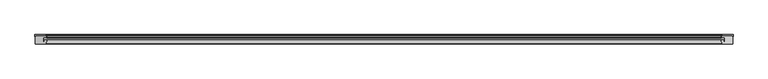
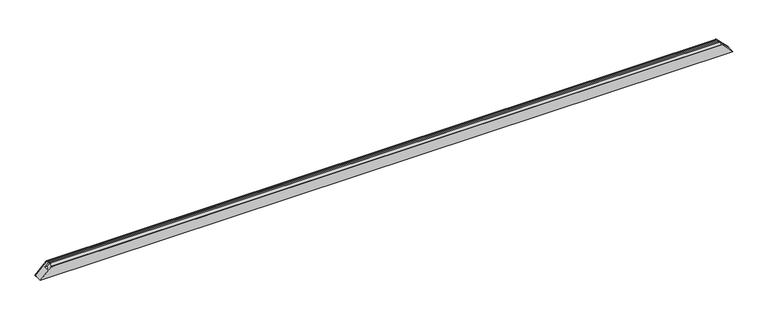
"""IFC4 building model written with IfcOpenShell, lengths in millimetres: proxy geometry, Weiku - Montante - Caixilho fixo 02.2.01.005 : Weiku - Montante - Caixilho fixo 02.2.01.005."""

from ifc_helpers import new_model, si_unit, frame, origin, place, context, project, spatial, polyline, ellipse_curve, source, transform, mapped, element, save
from ifc_brep_helpers import plane_surface, cylinder_surface, revolved_surface, advanced_brep


def generic_models_32cdc258(model_context):
    return source(origin(), model_context, "Body", "AdvancedBrep", [
        advanced_brep(
        [(1998.0, 43.5137905, -1.0), (1998.0, 54.0, -1.0), (1932.9663236, 54.0, 64.0336764), (1932.0003978, 53.258819, 64.9996022), (1928.1863753, 39.0246933, 68.8136247), (1930.8909676, 35.5, 66.1090324), (1930.8909676, 37.5, 66.1090324), (1930.118227, 38.5070552, 66.881773), (1932.6019557, 47.7764571, 64.3980443), (1935.4997332, 50.0, 61.5002668), (1997.0, 50.0, 0.0), (1997.0, 43.5137905, 0.0), (-1998.0, 54.0, -1.0), (-1998.0, 43.5137905, -1.0), (-1997.0, 43.5137905, 0.0), (-1997.0, 50.0, 0.0), (-1935.4997332, 50.0, 61.5002668), (-1932.6019557, 47.7764571, 64.3980443), (-1930.118227, 38.5070552, 66.881773), (-1930.8909676, 37.5, 66.1090324), (-1930.8909676, 35.5, 66.1090324), (-1928.1863753, 39.0246933, 68.8136247), (-1932.0003978, 53.258819, 64.9996022), (-1932.9663236, 54.0, 64.0336764)],
        [
            (0, 1),
            (1, 2),
            (2, 3, ellipse_curve(frame((1932.9663236, 53.0, 64.0336764), z_axis=(0.7071067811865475, 0.0, 0.7071067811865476), x_axis=(-0.7071067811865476, 0.0, 0.7071067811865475)), 1.4142136, 1.0)),
            (3, 4),
            (4, 5, ellipse_curve(frame((1930.8909676, 38.3, 66.1090324), z_axis=(0.7071067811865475, 0.0, 0.7071067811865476), x_axis=(-0.7071067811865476, 0.0, 0.7071067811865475)), 3.959798, 2.8)),
            (5, 6),
            (6, 7, ellipse_curve(frame((1930.8909676, 38.3, 66.1090324), z_axis=(-0.7071067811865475, 0.0, -0.7071067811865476), x_axis=(0.7071067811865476, 0.0, -0.7071067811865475)), 1.1313708, 0.8)),
            (7, 8),
            (8, 9, ellipse_curve(frame((1935.4997332, 47.0, 61.5002668), z_axis=(-0.7071067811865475, 0.0, -0.7071067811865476), x_axis=(0.7071067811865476, 0.0, -0.7071067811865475)), 4.2426407, 3.0)),
            (9, 10),
            (10, 11),
            (11, 0),
            (12, 13),
            (13, 14),
            (14, 15),
            (15, 16),
            (16, 17, ellipse_curve(frame((-1935.4997332, 47.0, 61.5002668), z_axis=(0.7071067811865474, 0.0, -0.7071067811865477), x_axis=(0.7071067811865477, 0.0, 0.7071067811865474)), 4.2426407, 3.0)),
            (17, 18),
            (18, 19, ellipse_curve(frame((-1930.8909676, 38.3, 66.1090324), z_axis=(0.7071067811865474, 0.0, -0.7071067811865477), x_axis=(0.7071067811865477, 0.0, 0.7071067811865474)), 1.1313708, 0.8)),
            (19, 20),
            (20, 21, ellipse_curve(frame((-1930.8909676, 38.3, 66.1090324), z_axis=(-0.7071067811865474, 0.0, 0.7071067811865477), x_axis=(-0.7071067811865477, 0.0, -0.7071067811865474)), 3.959798, 2.8)),
            (21, 22),
            (22, 23, ellipse_curve(frame((-1932.9663236, 53.0, 64.0336764), z_axis=(-0.7071067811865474, 0.0, 0.7071067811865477), x_axis=(-0.7071067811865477, 0.0, -0.7071067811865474)), 1.4142136, 1.0)),
            (23, 12),
            (0, 13),
            (12, 1),
            (11, 14),
            (10, 15),
            (9, 16),
            (8, 17),
            (7, 18),
            (6, 19),
            (5, 20),
            (4, 21),
            (3, 22),
            (2, 23),
        ],
        [
            plane_surface(frame((1927.0, -15.0, 70.0), z_axis=(0.7071067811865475, 0.0, 0.7071067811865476), x_axis=(0.0, 1.0, 0.0))),
            plane_surface(frame((-2067.0, -15.0, -70.0), z_axis=(-0.7071067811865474, 0.0, 0.7071067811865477), x_axis=(0.0, 1.0, 0.0))),
            plane_surface(frame((-1999.8284271, 54.0, -1.0), z_axis=(0.0, 0.0, -1.0), x_axis=(1.0, 0.0, 0.0))),
            plane_surface(frame((-1999.8284271, 43.5137905, -1.0), z_axis=(0.0, -1.0, 0.0), x_axis=(1.0, 0.0, 0.0))),
            plane_surface(frame((-1999.8284271, 43.5137905, 0.0), z_axis=(0.0, 0.0, 1.0), x_axis=(1.0, 0.0, 0.0))),
            plane_surface(frame((-1999.8284271, 50.0, 0.0), z_axis=(0.0, -1.0, 0.0), x_axis=(1.0, 0.0, 0.0))),
            revolved_surface(polyline([(1938.4997332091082, 44.0, 61.5002668), (-1938.4997332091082, 44.0, 61.5002668)]), (-1999.8284271, 47.0, 61.5002668), (1.0, 0.0, 0.0)),
            plane_surface(frame((-1999.8284271, 47.7764571, 64.3980443), z_axis=(0.0, -0.2588190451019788, -0.9659258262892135), x_axis=(1.0, 0.0, 0.0))),
            revolved_surface(polyline([(1931.6909675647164, 37.5, 66.1090324), (-1931.6909675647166, 37.5, 66.1090324)]), (-1999.8284271, 38.3, 66.1090324), (1.0, 0.0, 0.0)),
            plane_surface(frame((-1999.8284271, 37.5, 66.1090324), z_axis=(0.0, 0.0, -1.0), x_axis=(1.0, 0.0, 0.0))),
            cylinder_surface(frame((-1999.8284271, 38.3, 66.1090324), z_axis=(-1.0, 0.0, 0.0), x_axis=(0.0, -1.0, 0.0)), 2.8),
            plane_surface(frame((-1999.8284271, 39.0246933, 68.8136247), z_axis=(0.0, 0.25881904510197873, 0.9659258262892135), x_axis=(1.0, 0.0, 0.0))),
            cylinder_surface(frame((-1999.8284271, 53.0, 64.0336764), z_axis=(-1.0, 0.0, 0.0), x_axis=(0.0, -1.0, 0.0)), 1.0),
            plane_surface(frame((-1999.8284271, 54.0, 64.0336764), z_axis=(0.0, 1.0, 0.0), x_axis=(1.0, 0.0, 0.0))),
        ],
        [
            (0, [[1, 2, 3, 4, 5, 6, 7, 8, 9, 10, 11, 12]]),
            (1, [[13, 14, 15, 16, 17, 18, 19, 20, 21, 22, 23, 24]]),
            (2, [[-1, 25, -13, 26]]),
            (3, [[-12, 27, -14, -25]]),
            (4, [[-11, 28, -15, -27]]),
            (5, [[-10, 29, -16, -28]]),
            (6, [[-9, 30, -17, -29]]),
            (7, [[-8, 31, -18, -30]]),
            (8, [[-7, 32, -19, -31]]),
            (9, [[-6, 33, -20, -32]]),
            (10, [[-5, 34, -21, -33]]),
            (11, [[-4, 35, -22, -34]]),
            (12, [[-3, 36, -23, -35]]),
            (13, [[-2, -26, -24, -36]]),
        ],
    ),
        advanced_brep(
        [(-1930.118227, 38.5070552, 66.881773), (-1932.6019557, 47.7764571, 64.3980443), (-1935.4997332, 50.0, 61.5002668), (-1997.0, 50.0, 0.0), (-1997.0, 0.0, 0.0), (-1934.5355572, 0.0, 62.4644428), (-1933.5489094, 0.8371317, 63.4510906), (-1929.9998537, 22.3371317, 67.0001463), (-1930.9865015, 23.5, 66.0134985), (-1945.0009154, 23.5, 51.9990846), (-1945.0009154, 12.5, 51.9990846), (-1951.0, 12.5, 46.0), (-1951.0, 37.5, 46.0), (-1930.8909676, 37.5, 66.1090324), (1932.6019557, 47.7764571, 64.3980443), (1930.118227, 38.5070552, 66.881773), (1930.8909676, 37.5, 66.1090324), (1951.0, 37.5, 46.0), (1951.0, 12.5, 46.0), (1945.0009154, 12.5, 51.9990846), (1945.0009154, 23.5, 51.9990846), (1930.9865015, 23.5, 66.0134985), (1929.9998537, 22.3371317, 67.0001463), (1933.5489094, 0.8371317, 63.4510906), (1934.5355572, 0.0, 62.4644428), (1997.0, 0.0, 0.0), (1997.0, 50.0, 0.0), (1935.4997332, 50.0, 61.5002668)],
        [
            (0, 1),
            (1, 2, ellipse_curve(frame((-1935.4997332, 47.0, 61.5002668), z_axis=(-0.7071067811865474, 0.0, 0.7071067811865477), x_axis=(-0.7071067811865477, 0.0, -0.7071067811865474)), 4.2426407, 3.0)),
            (2, 3),
            (3, 4),
            (4, 5),
            (5, 6, ellipse_curve(frame((-1934.5355572, 1.0, 62.4644428), z_axis=(-0.7071067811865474, 0.0, 0.7071067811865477), x_axis=(-0.7071067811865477, 0.0, -0.7071067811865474)), 1.4142136, 1.0)),
            (6, 7),
            (7, 8, ellipse_curve(frame((-1930.9865015, 22.5, 66.0134985), z_axis=(-0.7071067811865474, 0.0, 0.7071067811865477), x_axis=(-0.7071067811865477, 0.0, -0.7071067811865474)), 1.4142136, 1.0)),
            (8, 9),
            (9, 10),
            (10, 11),
            (11, 12),
            (12, 13),
            (13, 0, ellipse_curve(frame((-1930.8909676, 38.3, 66.1090324), z_axis=(-0.7071067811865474, 0.0, 0.7071067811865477), x_axis=(-0.7071067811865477, 0.0, -0.7071067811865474)), 1.1313708, 0.8)),
            (14, 15),
            (15, 16, ellipse_curve(frame((1930.8909676, 38.3, 66.1090324), z_axis=(0.7071067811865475, 0.0, 0.7071067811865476), x_axis=(-0.7071067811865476, 0.0, 0.7071067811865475)), 1.1313708, 0.8)),
            (16, 17),
            (17, 18),
            (18, 19),
            (19, 20),
            (20, 21),
            (21, 22, ellipse_curve(frame((1930.9865015, 22.5, 66.0134985), z_axis=(0.7071067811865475, 0.0, 0.7071067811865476), x_axis=(-0.7071067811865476, 0.0, 0.7071067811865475)), 1.4142136, 1.0)),
            (22, 23),
            (23, 24, ellipse_curve(frame((1934.5355572, 1.0, 62.4644428), z_axis=(0.7071067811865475, 0.0, 0.7071067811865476), x_axis=(-0.7071067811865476, 0.0, 0.7071067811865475)), 1.4142136, 1.0)),
            (24, 25),
            (25, 26),
            (26, 27),
            (27, 14, ellipse_curve(frame((1935.4997332, 47.0, 61.5002668), z_axis=(0.7071067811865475, 0.0, 0.7071067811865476), x_axis=(-0.7071067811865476, 0.0, 0.7071067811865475)), 4.2426407, 3.0)),
            (0, 15),
            (14, 1),
            (27, 2),
            (26, 3),
            (25, 4),
            (24, 5),
            (23, 6),
            (22, 7),
            (21, 8),
            (20, 9),
            (19, 10),
            (18, 11),
            (17, 12),
            (16, 13),
        ],
        [
            plane_surface(frame((-2067.0, -15.0, -70.0), z_axis=(-0.7071067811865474, 0.0, 0.7071067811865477), x_axis=(0.0, 1.0, 0.0))),
            plane_surface(frame((1927.0, -15.0, 70.0), z_axis=(0.7071067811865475, 0.0, 0.7071067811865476), x_axis=(0.0, 1.0, 0.0))),
            plane_surface(frame((-1997.0, 38.5070552, 66.881773), z_axis=(0.0, 0.2588190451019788, 0.9659258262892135), x_axis=(1.0, 0.0, 0.0))),
            cylinder_surface(frame((-1997.0, 47.0, 61.5002668), z_axis=(-1.0, 0.0, 0.0), x_axis=(0.0, -1.0, 0.0)), 3.0),
            plane_surface(frame((-1997.0, 50.0, 61.5002668), z_axis=(0.0, 1.0, 0.0), x_axis=(1.0, 0.0, 0.0))),
            plane_surface(frame((-1997.0, 50.0, 0.0), z_axis=(0.0, 0.0, -1.0), x_axis=(1.0, 0.0, 0.0))),
            plane_surface(frame((-1997.0, 0.0, 0.0), z_axis=(0.0, -1.0, 0.0), x_axis=(1.0, 0.0, 0.0))),
            cylinder_surface(frame((-1997.0, 1.0, 62.4644428), z_axis=(-1.0, 0.0, 0.0), x_axis=(0.0, 1.0, 0.0)), 1.0),
            plane_surface(frame((-1997.0, 0.8371317, 63.4510906), z_axis=(0.0, -0.16286828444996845, 0.9866478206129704), x_axis=(1.0, 0.0, 0.0))),
            cylinder_surface(frame((-1997.0, 22.5, 66.0134985), z_axis=(-1.0, 0.0, 0.0), x_axis=(0.0, 1.0, 0.0)), 1.0),
            plane_surface(frame((-1997.0, 23.5, 66.0134985), z_axis=(0.0, 1.0, 0.0), x_axis=(1.0, 0.0, 0.0))),
            plane_surface(frame((-1997.0, 23.5, 51.9990846), z_axis=(0.0, 0.0, -1.0), x_axis=(1.0, 0.0, 0.0))),
            plane_surface(frame((-1997.0, 12.5, 51.9990846), z_axis=(0.0, 1.0, 0.0), x_axis=(1.0, 0.0, 0.0))),
            plane_surface(frame((-1997.0, 12.5, 46.0), z_axis=(0.0, 0.0, 1.0), x_axis=(1.0, 0.0, 0.0))),
            plane_surface(frame((-1997.0, 37.5, 46.0), z_axis=(0.0, -1.0, 0.0), x_axis=(1.0, 0.0, 0.0))),
            cylinder_surface(frame((-1997.0, 38.3, 66.1090324), z_axis=(-1.0, 0.0, 0.0), x_axis=(0.0, -1.0, 0.0)), 0.8),
        ],
        [
            (0, [[1, 2, 3, 4, 5, 6, 7, 8, 9, 10, 11, 12, 13, 14]]),
            (1, [[15, 16, 17, 18, 19, 20, 21, 22, 23, 24, 25, 26, 27, 28]]),
            (2, [[-1, 29, -15, 30]]),
            (3, [[-2, -30, -28, 31]]),
            (4, [[32, -3, -31, -27]]),
            (5, [[-32, -26, 33, -4]]),
            (6, [[-33, -25, 34, -5]]),
            (7, [[-6, -34, -24, 35]]),
            (8, [[-7, -35, -23, 36]]),
            (9, [[-8, -36, -22, 37]]),
            (10, [[-9, -37, -21, 38]]),
            (11, [[-10, -38, -20, 39]]),
            (12, [[-11, -39, -19, 40]]),
            (13, [[-12, -40, -18, 41]]),
            (14, [[-13, -41, -17, 42]]),
            (15, [[-14, -42, -16, -29]]),
        ],
    ),
    ])


if __name__ == "__main__":
    model = new_model("IFC4")
    model_context = context("Model", 3, world=origin())
    ifc_project = project(units=[si_unit("LENGTHUNIT", "METRE", prefix="MILLI")], contexts=[model_context])
    site = spatial("IfcSite", under=ifc_project)
    building = spatial("IfcBuilding", under=site)
    placement = place(None, origin())
    generic_models_shape = generic_models_32cdc258(model_context)
    element("IfcBuildingElementProxy", 1, Name="Weiku - Montante - Caixilho fixo 02.2.01.005 : Weiku - Montante - Caixilho fixo 02.2.01.005", ObjectType="Weiku - Montante - Caixilho fixo 02.2.01.005 : Weiku - Montante - Caixilho fixo 02.2.01.005", at=placement, inside=building, context=model_context, shape_type="MappedRepresentation", body=[
        mapped(generic_models_shape, transform((0.0, 0.0, 0.0), x_axis=(1.0, 0.0, 0.0), y_axis=(0.0, 1.0, 0.0), z_axis=(0.0, 0.0, 1.0))),
    ])
    save(model, "model.ifc")
